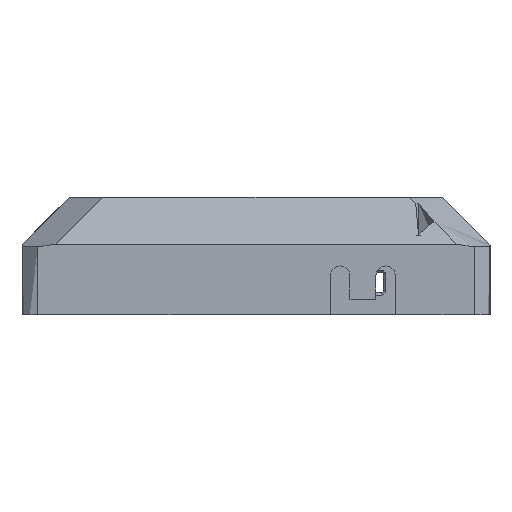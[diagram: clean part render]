
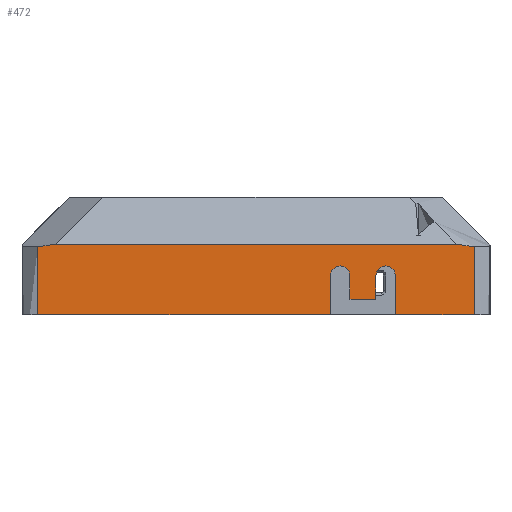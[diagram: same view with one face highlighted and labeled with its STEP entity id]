
A CAD part, left-side view. The second image highlights one B-rep face of the part: STEP entity #472.
In plain terms, the highlighted planar face has unit normal (-1, 0, 0).
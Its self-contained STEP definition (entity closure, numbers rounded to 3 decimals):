
#3 = CARTESIAN_POINT ( 'NONE',  ( -43.75, -17.75, -13.5 ) ) ;
#15 = DIRECTION ( 'NONE',  ( 0., 0., 1. ) ) ;
#18 = EDGE_CURVE ( 'NONE', #665, #4720, #6413, .T. ) ;
#88 = CARTESIAN_POINT ( 'NONE',  ( -43.75, -26.962, -4.615 ) ) ;
#114 = CARTESIAN_POINT ( 'NONE',  ( -43.75, 26.209, -4.5 ) ) ;
#150 = VECTOR ( 'NONE', #10904, 1000. ) ;
#196 = LINE ( 'NONE', #2218, #4572 ) ;
#250 = EDGE_CURVE ( 'NONE', #5934, #665, #8974, .T. ) ;
#295 = CARTESIAN_POINT ( 'NONE',  ( -43.75, -10.7, -8.5 ) ) ;
#423 =( BOUNDED_CURVE ( )  B_SPLINE_CURVE ( 3, ( #8941, #88, #4105, #11174 ),
 .UNSPECIFIED., .F., .T. ) 
 B_SPLINE_CURVE_WITH_KNOTS ( ( 4, 4 ),
 ( 2.332, 2.618 ),
 .UNSPECIFIED. ) 
 CURVE ( )  GEOMETRIC_REPRESENTATION_ITEM ( )  RATIONAL_B_SPLINE_CURVE ( ( 1., 0.993, 0.993, 1. ) ) 
 REPRESENTATION_ITEM ( '' )  );
#472 = ADVANCED_FACE ( 'NONE', ( #6754 ), #12937, .T. ) ;
#518 = ORIENTED_EDGE ( 'NONE', *, *, #1533, .F. ) ;
#595 = CARTESIAN_POINT ( 'NONE',  ( -43.75, -27.75, -13.5 ) ) ;
#665 = VERTEX_POINT ( 'NONE', #11845 ) ;
#912 = CARTESIAN_POINT ( 'NONE',  ( -43.75, -15.25, -8.5 ) ) ;
#1104 = VERTEX_POINT ( 'NONE', #5952 ) ;
#1335 = ORIENTED_EDGE ( 'NONE', *, *, #18, .F. ) ;
#1475 = CARTESIAN_POINT ( 'NONE',  ( -43.75, 27.75, -13.5 ) ) ;
#1533 = EDGE_CURVE ( 'NONE', #4865, #5466, #2963, .T. ) ;
#1659 = CARTESIAN_POINT ( 'NONE',  ( -43.75, -27.75, 107.314 ) ) ;
#1845 = EDGE_CURVE ( 'NONE', #9479, #6927, #9744, .T. ) ;
#2061 = VECTOR ( 'NONE', #11249, 1000. ) ;
#2128 = CARTESIAN_POINT ( 'NONE',  ( -43.75, 27.75, -4.844 ) ) ;
#2218 = CARTESIAN_POINT ( 'NONE',  ( -43.75, -11.95, -13.5 ) ) ;
#2534 = LINE ( 'NONE', #3341, #4439 ) ;
#2587 = CIRCLE ( 'NONE', #9104, 1.25 ) ;
#2613 = CARTESIAN_POINT ( 'NONE',  ( -43.75, 29.75, -13.5 ) ) ;
#2863 = DIRECTION ( 'NONE',  ( 0., 0., -1. ) ) ;
#2893 = CARTESIAN_POINT ( 'NONE',  ( -43.75, 29.75, -4.5 ) ) ;
#2919 = ORIENTED_EDGE ( 'NONE', *, *, #9735, .F. ) ;
#2963 = LINE ( 'NONE', #4034, #11034 ) ;
#3341 = CARTESIAN_POINT ( 'NONE',  ( -43.75, -9.45, -8.5 ) ) ;
#3360 = CARTESIAN_POINT ( 'NONE',  ( -43.75, -16.5, -7.25 ) ) ;
#3365 = VERTEX_POINT ( 'NONE', #12193 ) ;
#3448 = ORIENTED_EDGE ( 'NONE', *, *, #250, .F. ) ;
#3528 = DIRECTION ( 'NONE',  ( 0., 0., 1. ) ) ;
#3568 = VERTEX_POINT ( 'NONE', #595 ) ;
#3773 = DIRECTION ( 'NONE',  ( 0., 0., -1. ) ) ;
#3806 = ORIENTED_EDGE ( 'NONE', *, *, #9176, .T. ) ;
#3892 = CARTESIAN_POINT ( 'NONE',  ( -43.75, -17.75, -13.5 ) ) ;
#3910 = ORIENTED_EDGE ( 'NONE', *, *, #5011, .T. ) ;
#3969 = CARTESIAN_POINT ( 'NONE',  ( -43.75, 29.75, 107.314 ) ) ;
#4034 = CARTESIAN_POINT ( 'NONE',  ( -43.75, -15.25, -11.5 ) ) ;
#4041 = VERTEX_POINT ( 'NONE', #5177 ) ;
#4097 = DIRECTION ( 'NONE',  ( 0., 0., 1. ) ) ;
#4105 = CARTESIAN_POINT ( 'NONE',  ( -43.75, -26.209, -4.5 ) ) ;
#4138 = CARTESIAN_POINT ( 'NONE',  ( -43.75, 26.962, -4.615 ) ) ;
#4322 = EDGE_CURVE ( 'NONE', #3568, #5934, #5293, .T. ) ;
#4431 = VECTOR ( 'NONE', #6639, 1000. ) ;
#4439 = VECTOR ( 'NONE', #8356, 1000. ) ;
#4476 = ORIENTED_EDGE ( 'NONE', *, *, #6435, .F. ) ;
#4531 = VERTEX_POINT ( 'NONE', #8517 ) ;
#4567 = EDGE_CURVE ( 'NONE', #3568, #6494, #7635, .T. ) ;
#4572 = VECTOR ( 'NONE', #15, 1000. ) ;
#4626 = CARTESIAN_POINT ( 'NONE',  ( -43.75, 27.75, 107.314 ) ) ;
#4720 = VERTEX_POINT ( 'NONE', #3360 ) ;
#4845 = CARTESIAN_POINT ( 'NONE',  ( -43.75, -27.75, -4.844 ) ) ;
#4865 = VERTEX_POINT ( 'NONE', #10227 ) ;
#5011 = EDGE_CURVE ( 'NONE', #6494, #3365, #423, .T. ) ;
#5072 =( BOUNDED_CURVE ( )  B_SPLINE_CURVE ( 3, ( #11077, #114, #4138, #2128 ),
 .UNSPECIFIED., .F., .T. ) 
 B_SPLINE_CURVE_WITH_KNOTS ( ( 4, 4 ),
 ( 0.524, 0.809 ),
 .UNSPECIFIED. ) 
 CURVE ( )  GEOMETRIC_REPRESENTATION_ITEM ( )  RATIONAL_B_SPLINE_CURVE ( ( 1., 0.993, 0.993, 1. ) ) 
 REPRESENTATION_ITEM ( '' )  );
#5174 = AXIS2_PLACEMENT_3D ( 'NONE', #295, #11197, #8236 ) ;
#5177 = CARTESIAN_POINT ( 'NONE',  ( -43.75, -11.95, -8.5 ) ) ;
#5268 = VECTOR ( 'NONE', #6497, 1000. ) ;
#5293 = LINE ( 'NONE', #10334, #2061 ) ;
#5373 = DIRECTION ( 'NONE',  ( 0., 0., 1. ) ) ;
#5466 = VERTEX_POINT ( 'NONE', #6306 ) ;
#5580 = AXIS2_PLACEMENT_3D ( 'NONE', #5694, #11263, #5373 ) ;
#5583 = EDGE_CURVE ( 'NONE', #1104, #6927, #11230, .T. ) ;
#5627 = ORIENTED_EDGE ( 'NONE', *, *, #10992, .F. ) ;
#5694 = CARTESIAN_POINT ( 'NONE',  ( -43.75, -16.5, -8.5 ) ) ;
#5934 = VERTEX_POINT ( 'NONE', #3892 ) ;
#5952 = CARTESIAN_POINT ( 'NONE',  ( -43.75, -9.45, -13.5 ) ) ;
#6306 = CARTESIAN_POINT ( 'NONE',  ( -43.75, -11.95, -11.5 ) ) ;
#6317 = ORIENTED_EDGE ( 'NONE', *, *, #11647, .T. ) ;
#6405 = VECTOR ( 'NONE', #9870, 1000. ) ;
#6413 = CIRCLE ( 'NONE', #5580, 1.25 ) ;
#6435 = EDGE_CURVE ( 'NONE', #9905, #1104, #2534, .T. ) ;
#6494 = VERTEX_POINT ( 'NONE', #4845 ) ;
#6497 = DIRECTION ( 'NONE',  ( 0., 1., 0. ) ) ;
#6639 = DIRECTION ( 'NONE',  ( 0., 0., 1. ) ) ;
#6754 = FACE_OUTER_BOUND ( 'NONE', #11992, .T. ) ;
#6793 = CARTESIAN_POINT ( 'NONE',  ( -43.75, -10.7, -7.25 ) ) ;
#6866 = VECTOR ( 'NONE', #2863, 1000. ) ;
#6927 = VERTEX_POINT ( 'NONE', #1475 ) ;
#6938 = EDGE_CURVE ( 'NONE', #4041, #7282, #2587, .T. ) ;
#7032 = DIRECTION ( 'NONE',  ( -1., 0., 0. ) ) ;
#7257 = CIRCLE ( 'NONE', #5174, 1.25 ) ;
#7282 = VERTEX_POINT ( 'NONE', #6793 ) ;
#7312 = ORIENTED_EDGE ( 'NONE', *, *, #4567, .T. ) ;
#7635 = LINE ( 'NONE', #1659, #4431 ) ;
#7640 = EDGE_CURVE ( 'NONE', #7282, #9905, #7257, .T. ) ;
#7746 = ORIENTED_EDGE ( 'NONE', *, *, #5583, .F. ) ;
#8024 = DIRECTION ( 'NONE',  ( 0., 1., 0. ) ) ;
#8236 = DIRECTION ( 'NONE',  ( 0., 0., 1. ) ) ;
#8356 = DIRECTION ( 'NONE',  ( 0., 0., -1. ) ) ;
#8517 = CARTESIAN_POINT ( 'NONE',  ( -43.75, -15.25, -8.5 ) ) ;
#8587 = DIRECTION ( 'NONE',  ( -1., 0., 0. ) ) ;
#8603 = ORIENTED_EDGE ( 'NONE', *, *, #6938, .F. ) ;
#8656 = CARTESIAN_POINT ( 'NONE',  ( -43.75, -16.5, -8.5 ) ) ;
#8658 = CARTESIAN_POINT ( 'NONE',  ( -43.75, 25.507, -4.5 ) ) ;
#8718 = LINE ( 'NONE', #2893, #150 ) ;
#8822 = EDGE_CURVE ( 'NONE', #5466, #4041, #196, .T. ) ;
#8941 = CARTESIAN_POINT ( 'NONE',  ( -43.75, -27.75, -4.844 ) ) ;
#8974 = LINE ( 'NONE', #3, #6405 ) ;
#9104 = AXIS2_PLACEMENT_3D ( 'NONE', #11577, #8587, #11629 ) ;
#9176 = EDGE_CURVE ( 'NONE', #3365, #11403, #8718, .T. ) ;
#9386 = VECTOR ( 'NONE', #3773, 1000. ) ;
#9401 = ORIENTED_EDGE ( 'NONE', *, *, #4322, .F. ) ;
#9479 = VERTEX_POINT ( 'NONE', #12588 ) ;
#9560 = DIRECTION ( 'NONE',  ( -1., 0., 0. ) ) ;
#9735 = EDGE_CURVE ( 'NONE', #4531, #4865, #11781, .T. ) ;
#9744 = LINE ( 'NONE', #4626, #9386 ) ;
#9870 = DIRECTION ( 'NONE',  ( 0., 0., 1. ) ) ;
#9905 = VERTEX_POINT ( 'NONE', #12210 ) ;
#10227 = CARTESIAN_POINT ( 'NONE',  ( -43.75, -15.25, -11.5 ) ) ;
#10334 = CARTESIAN_POINT ( 'NONE',  ( -43.75, 29.75, -13.5 ) ) ;
#10544 = CIRCLE ( 'NONE', #11797, 1.25 ) ;
#10904 = DIRECTION ( 'NONE',  ( 0., 1., 0. ) ) ;
#10992 = EDGE_CURVE ( 'NONE', #4720, #4531, #10544, .T. ) ;
#11012 = AXIS2_PLACEMENT_3D ( 'NONE', #3969, #7032, #4097 ) ;
#11034 = VECTOR ( 'NONE', #8024, 1000. ) ;
#11077 = CARTESIAN_POINT ( 'NONE',  ( -43.75, 25.507, -4.5 ) ) ;
#11160 = ORIENTED_EDGE ( 'NONE', *, *, #7640, .F. ) ;
#11174 = CARTESIAN_POINT ( 'NONE',  ( -43.75, -25.507, -4.5 ) ) ;
#11197 = DIRECTION ( 'NONE',  ( -1., 0., 0. ) ) ;
#11230 = LINE ( 'NONE', #2613, #5268 ) ;
#11249 = DIRECTION ( 'NONE',  ( 0., 1., 0. ) ) ;
#11263 = DIRECTION ( 'NONE',  ( -1., 0., 0. ) ) ;
#11403 = VERTEX_POINT ( 'NONE', #8658 ) ;
#11566 = ORIENTED_EDGE ( 'NONE', *, *, #1845, .T. ) ;
#11577 = CARTESIAN_POINT ( 'NONE',  ( -43.75, -10.7, -8.5 ) ) ;
#11629 = DIRECTION ( 'NONE',  ( 0., 0., 1. ) ) ;
#11647 = EDGE_CURVE ( 'NONE', #11403, #9479, #5072, .T. ) ;
#11781 = LINE ( 'NONE', #912, #6866 ) ;
#11797 = AXIS2_PLACEMENT_3D ( 'NONE', #8656, #9560, #3528 ) ;
#11845 = CARTESIAN_POINT ( 'NONE',  ( -43.75, -17.75, -8.5 ) ) ;
#11992 = EDGE_LOOP ( 'NONE', ( #9401, #7312, #3910, #3806, #6317, #11566, #7746, #4476, #11160, #8603, #12542, #518, #2919, #5627, #1335, #3448 ) ) ;
#12193 = CARTESIAN_POINT ( 'NONE',  ( -43.75, -25.507, -4.5 ) ) ;
#12210 = CARTESIAN_POINT ( 'NONE',  ( -43.75, -9.45, -8.5 ) ) ;
#12542 = ORIENTED_EDGE ( 'NONE', *, *, #8822, .F. ) ;
#12588 = CARTESIAN_POINT ( 'NONE',  ( -43.75, 27.75, -4.844 ) ) ;
#12937 = PLANE ( 'NONE',  #11012 ) ;
